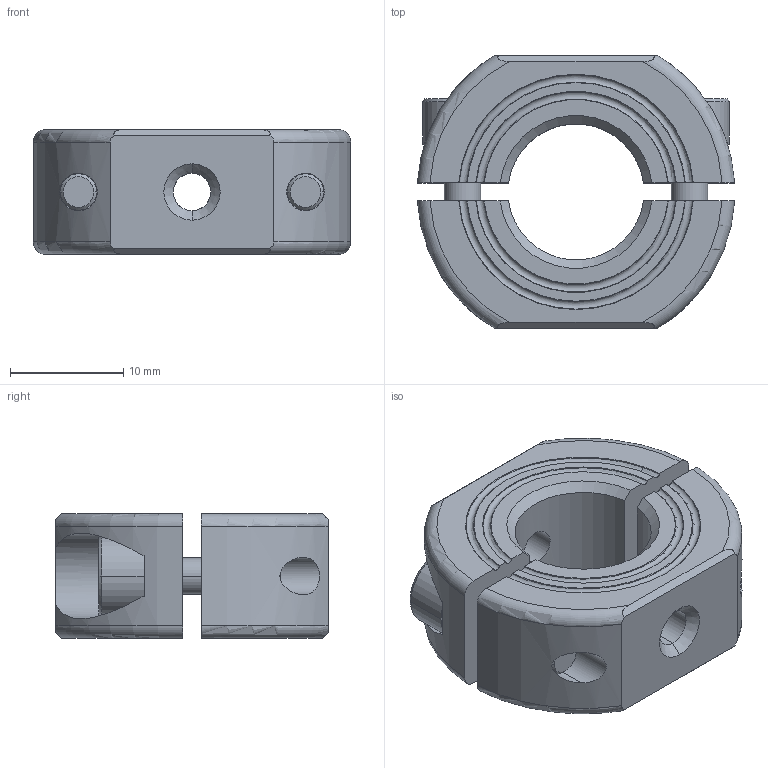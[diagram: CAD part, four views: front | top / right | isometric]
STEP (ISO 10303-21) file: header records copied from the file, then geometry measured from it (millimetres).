
FILE_DESCRIPTION (( 'STEP AP214' ), '1' );
FILE_NAME ('Ruland_OF-MSP-12-F.step', '2019-11-07T15:53:08', ( '' ), ( '' ), 'SwSTEP 2.0', 'SolidWorks 2019', '' );
FILE_SCHEMA (( 'AUTOMOTIVE_DESIGN' ));
Length unit declared in the file: inch
Products named in the file (3): Ruland_OF-MSP-12-F; Metric Socket Head Cap Screws 1_CFM4_12; OX-MSP-XX-XX-D_OF-MSP-12-F-D
Assembly tree (3 placements, depth 2):
  Ruland_OF-MSP-12-F
    OX-MSP-XX-XX-D_OF-MSP-12-F-D
    Metric Socket Head Cap Screws 1_CFM4_12  x2
Bounding box: 27.95 x 24 x 11 mm (x, y, z)
Volume: 4397.3 mm3; surface area: 3483.8 mm2
Topology: 4 solids, 4 shells, 108 faces, 276 edges, 180 vertices
Faces by surface type: plane 40, cylinder 32, cone 24, torus 12
Entity records: 3497 total; most frequent: CARTESIAN_POINT 1030, ORIENTED_EDGE 476, DIRECTION 454, EDGE_CURVE 238, AXIS2_PLACEMENT_3D 176, VERTEX_POINT 156, EDGE_LOOP 104, LINE 102
